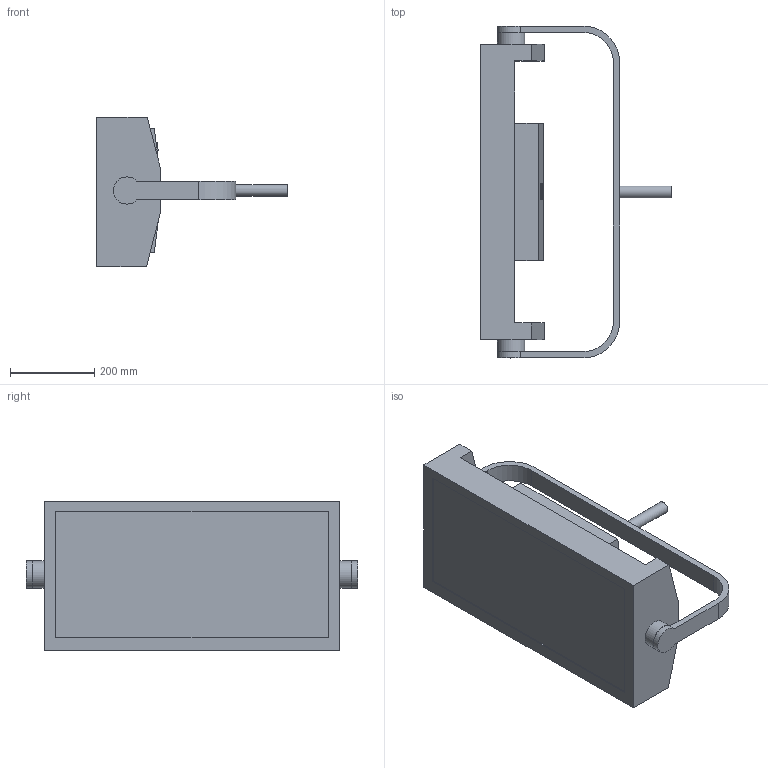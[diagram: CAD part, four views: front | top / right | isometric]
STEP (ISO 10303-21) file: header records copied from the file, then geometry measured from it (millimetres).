
FILE_DESCRIPTION(/* description */ (''),/* implementation_level */ '2;1');
FILE_NAME(/* name */ 'D:/dgooch/Documents/CADENG/PRO/onAir Panel 2 IP/90/3D/onAir Panel 2 IP_90.step',/* time_stamp */ '2021-03-16T16:30:49-04:00',/* author */ (''),/* organization */ (''),/* preprocessor_version */ 'ST-DEVELOPER v18.1',/* originating_system */ 'Autodesk Translation Framework v9.10.0.1330',/* authorisation */ '');
FILE_SCHEMA (('AUTOMOTIVE_DESIGN { 1 0 10303 214 3 1 1 }'));
Length unit declared in the file: millimetre
Products named in the file (3): onAirPanel2IP; Head; Bracket
Assembly tree (2 placements, depth 2):
  onAirPanel2IP
    Head
    Bracket
Bounding box: 452.54 x 786.9 x 354.91 mm (x, y, z)
Volume: 28571299.6 mm3; surface area: 1015849.1 mm2
Topology: 2 solids, 2 shells, 51 faces, 123 edges, 82 vertices
Faces by surface type: plane 42, cylinder 9
Full cylindrical faces by diameter (mm): 28 x1, 64.365 x2
Entity records: 1560 total; most frequent: CARTESIAN_POINT 261, DIRECTION 253, ORIENTED_EDGE 246, EDGE_CURVE 123, LINE 105, VECTOR 105, VERTEX_POINT 82, AXIS2_PLACEMENT_3D 74
